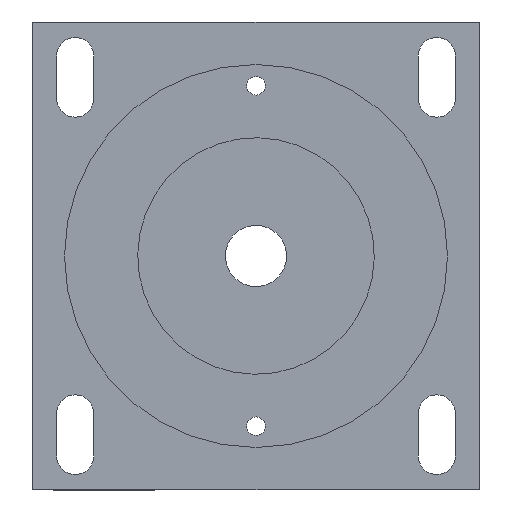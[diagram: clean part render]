
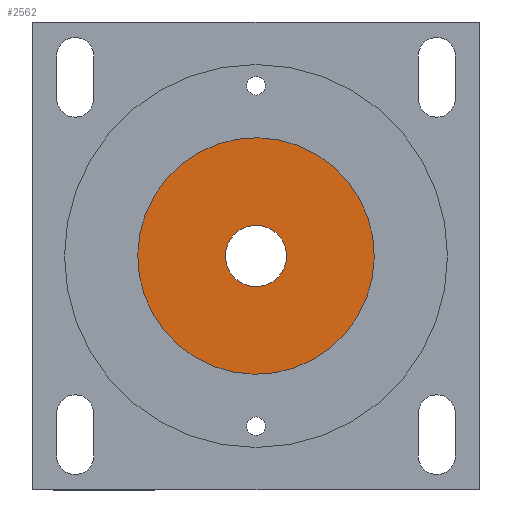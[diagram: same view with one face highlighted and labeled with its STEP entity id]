
A CAD part, front view. The second image highlights one B-rep face of the part: STEP entity #2562.
In plain terms, the highlighted planar face has unit normal (0, -1, 0).
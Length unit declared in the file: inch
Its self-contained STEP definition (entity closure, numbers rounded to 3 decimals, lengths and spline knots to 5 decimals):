
#52 = ORIENTED_EDGE ( 'NONE', *, *, #2977, .F. ) ;
#130 = DIRECTION ( 'NONE',  ( -0.934, 0., 0.357 ) ) ;
#140 = ORIENTED_EDGE ( 'NONE', *, *, #1767, .F. ) ;
#468 = FACE_BOUND ( 'NONE', #1781, .T. ) ;
#594 = FACE_OUTER_BOUND ( 'NONE', #2720, .T. ) ;
#954 = VERTEX_POINT ( 'NONE', #4958 ) ;
#1138 = DIRECTION ( 'NONE',  ( 0.934, 0., -0.357 ) ) ;
#1280 = EDGE_CURVE ( 'NONE', #4600, #954, #4434, .T. ) ;
#1282 = VERTEX_POINT ( 'NONE', #3881 ) ;
#1416 = CIRCLE ( 'NONE', #2942, 0.36 ) ;
#1474 = CARTESIAN_POINT ( 'NONE',  ( 0.11309, -0.68926, 0.38537 ) ) ;
#1499 = AXIS2_PLACEMENT_3D ( 'NONE', #2355, #5048, #2746 ) ;
#1521 = PLANE ( 'NONE',  #4873 ) ;
#1767 = EDGE_CURVE ( 'NONE', #954, #4600, #1416, .T. ) ;
#1781 = EDGE_LOOP ( 'NONE', ( #140, #2917 ) ) ;
#1878 = DIRECTION ( 'NONE',  ( 0.934, 0., -0.357 ) ) ;
#1942 = VERTEX_POINT ( 'NONE', #4522 ) ;
#1966 = AXIS2_PLACEMENT_3D ( 'NONE', #2044, #4737, #2439 ) ;
#2044 = CARTESIAN_POINT ( 'NONE',  ( 0.11309, -0.68926, 0.38537 ) ) ;
#2355 = CARTESIAN_POINT ( 'NONE',  ( 0.11309, -0.68926, 0.38537 ) ) ;
#2360 = ORIENTED_EDGE ( 'NONE', *, *, #4104, .F. ) ;
#2439 = DIRECTION ( 'NONE',  ( 0.934, 0., -0.357 ) ) ;
#2479 = DIRECTION ( 'NONE',  ( 0., -1., 0. ) ) ;
#2562 = ADVANCED_FACE ( 'NONE', ( #468, #594 ), #1521, .F. ) ;
#2691 = CARTESIAN_POINT ( 'NONE',  ( 0.11309, -0.68926, 0.38537 ) ) ;
#2720 = EDGE_LOOP ( 'NONE', ( #52, #2360 ) ) ;
#2746 = DIRECTION ( 'NONE',  ( -0.934, 0., 0.357 ) ) ;
#2917 = ORIENTED_EDGE ( 'NONE', *, *, #1280, .F. ) ;
#2942 = AXIS2_PLACEMENT_3D ( 'NONE', #4776, #2479, #130 ) ;
#2977 = EDGE_CURVE ( 'NONE', #1282, #1942, #4957, .T. ) ;
#3240 = CARTESIAN_POINT ( 'NONE',  ( 0.44932, -0.68926, 0.25672 ) ) ;
#3464 = DIRECTION ( 'NONE',  ( 0., 1., 0. ) ) ;
#3881 = CARTESIAN_POINT ( 'NONE',  ( 1.4113, -0.68926, -0.11136 ) ) ;
#4104 = EDGE_CURVE ( 'NONE', #1942, #1282, #4631, .T. ) ;
#4192 = DIRECTION ( 'NONE',  ( 0., 1., 0. ) ) ;
#4434 = CIRCLE ( 'NONE', #1499, 0.36 ) ;
#4522 = CARTESIAN_POINT ( 'NONE',  ( -1.18512, -0.68926, 0.88211 ) ) ;
#4600 = VERTEX_POINT ( 'NONE', #3240 ) ;
#4631 = CIRCLE ( 'NONE', #1966, 1.39 ) ;
#4737 = DIRECTION ( 'NONE',  ( 0., 1., 0. ) ) ;
#4764 = AXIS2_PLACEMENT_3D ( 'NONE', #1474, #4192, #1878 ) ;
#4776 = CARTESIAN_POINT ( 'NONE',  ( 0.11309, -0.68926, 0.38537 ) ) ;
#4873 = AXIS2_PLACEMENT_3D ( 'NONE', #2691, #3464, #1138 ) ;
#4957 = CIRCLE ( 'NONE', #4764, 1.39 ) ;
#4958 = CARTESIAN_POINT ( 'NONE',  ( -0.22314, -0.68926, 0.51402 ) ) ;
#5048 = DIRECTION ( 'NONE',  ( 0., -1., 0. ) ) ;
